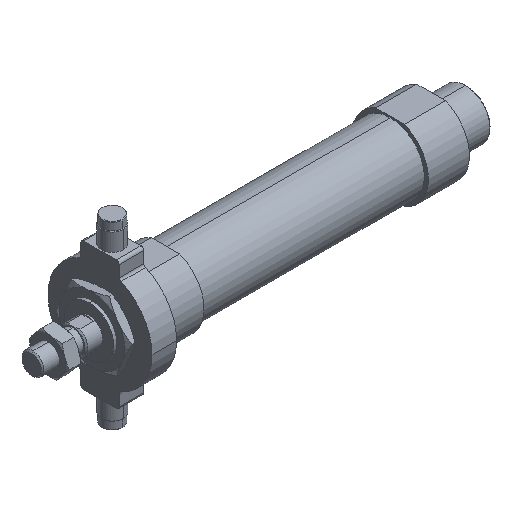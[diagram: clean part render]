
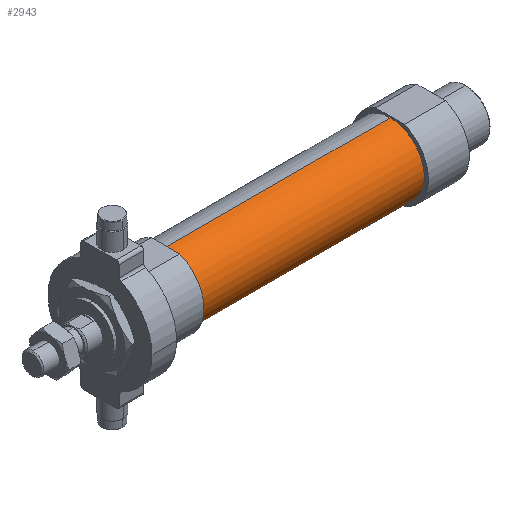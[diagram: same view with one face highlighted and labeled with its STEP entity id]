
A CAD part, isometric view. The second image highlights one B-rep face of the part: STEP entity #2943.
In plain terms, the highlighted cylindrical face has radius 12.5 mm (diameter 25 mm), a partial arc.
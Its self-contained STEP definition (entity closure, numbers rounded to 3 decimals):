
#127 = EDGE_LOOP ( 'NONE', ( #2075, #3448, #1557, #1676 ) ) ;
#471 = DIRECTION ( 'NONE',  ( 0., 0., 1. ) ) ;
#879 = CARTESIAN_POINT ( 'NONE',  ( 131., 0., 12.5 ) ) ;
#1027 = EDGE_CURVE ( 'NONE', #4019, #3345, #4023, .T. ) ;
#1037 = DIRECTION ( 'NONE',  ( -1., 0., 0. ) ) ;
#1084 = LINE ( 'NONE', #2042, #3739 ) ;
#1153 = CARTESIAN_POINT ( 'NONE',  ( 49., 0., -12.5 ) ) ;
#1557 = ORIENTED_EDGE ( 'NONE', *, *, #2371, .T. ) ;
#1622 = CARTESIAN_POINT ( 'NONE',  ( -6.469, 0., -12.5 ) ) ;
#1676 = ORIENTED_EDGE ( 'NONE', *, *, #3359, .F. ) ;
#1706 = AXIS2_PLACEMENT_3D ( 'NONE', #3670, #1771, #4264 ) ;
#1771 = DIRECTION ( 'NONE',  ( -1., 0., 0. ) ) ;
#1795 = DIRECTION ( 'NONE',  ( -1., 0., 0. ) ) ;
#1808 = CARTESIAN_POINT ( 'NONE',  ( 131., 0., 0. ) ) ;
#1925 = CYLINDRICAL_SURFACE ( 'NONE', #2414, 12.5 ) ;
#2016 = CARTESIAN_POINT ( 'NONE',  ( 131., 0., -12.5 ) ) ;
#2042 = CARTESIAN_POINT ( 'NONE',  ( -6.469, 0., 12.5 ) ) ;
#2075 = ORIENTED_EDGE ( 'NONE', *, *, #1027, .F. ) ;
#2137 = DIRECTION ( 'NONE',  ( 0., 0., 1. ) ) ;
#2140 = AXIS2_PLACEMENT_3D ( 'NONE', #1808, #1037, #471 ) ;
#2230 = VECTOR ( 'NONE', #3578, 1000. ) ;
#2371 = EDGE_CURVE ( 'NONE', #2858, #4322, #1084, .T. ) ;
#2414 = AXIS2_PLACEMENT_3D ( 'NONE', #3842, #1795, #2137 ) ;
#2613 = DIRECTION ( 'NONE',  ( -1., 0., 0. ) ) ;
#2849 = EDGE_CURVE ( 'NONE', #4019, #2858, #3713, .T. ) ;
#2858 = VERTEX_POINT ( 'NONE', #879 ) ;
#2908 = CARTESIAN_POINT ( 'NONE',  ( 49., 0., 12.5 ) ) ;
#2943 = ADVANCED_FACE ( 'NONE', ( #4143 ), #1925, .T. ) ;
#3178 = CIRCLE ( 'NONE', #1706, 12.5 ) ;
#3345 = VERTEX_POINT ( 'NONE', #1153 ) ;
#3359 = EDGE_CURVE ( 'NONE', #3345, #4322, #3178, .T. ) ;
#3448 = ORIENTED_EDGE ( 'NONE', *, *, #2849, .T. ) ;
#3578 = DIRECTION ( 'NONE',  ( -1., 0., 0. ) ) ;
#3670 = CARTESIAN_POINT ( 'NONE',  ( 49., 0., 0. ) ) ;
#3713 = CIRCLE ( 'NONE', #2140, 12.5 ) ;
#3739 = VECTOR ( 'NONE', #2613, 1000. ) ;
#3842 = CARTESIAN_POINT ( 'NONE',  ( -6.469, 0., 0. ) ) ;
#4019 = VERTEX_POINT ( 'NONE', #2016 ) ;
#4023 = LINE ( 'NONE', #1622, #2230 ) ;
#4143 = FACE_OUTER_BOUND ( 'NONE', #127, .T. ) ;
#4264 = DIRECTION ( 'NONE',  ( 0., 0., 1. ) ) ;
#4322 = VERTEX_POINT ( 'NONE', #2908 ) ;
